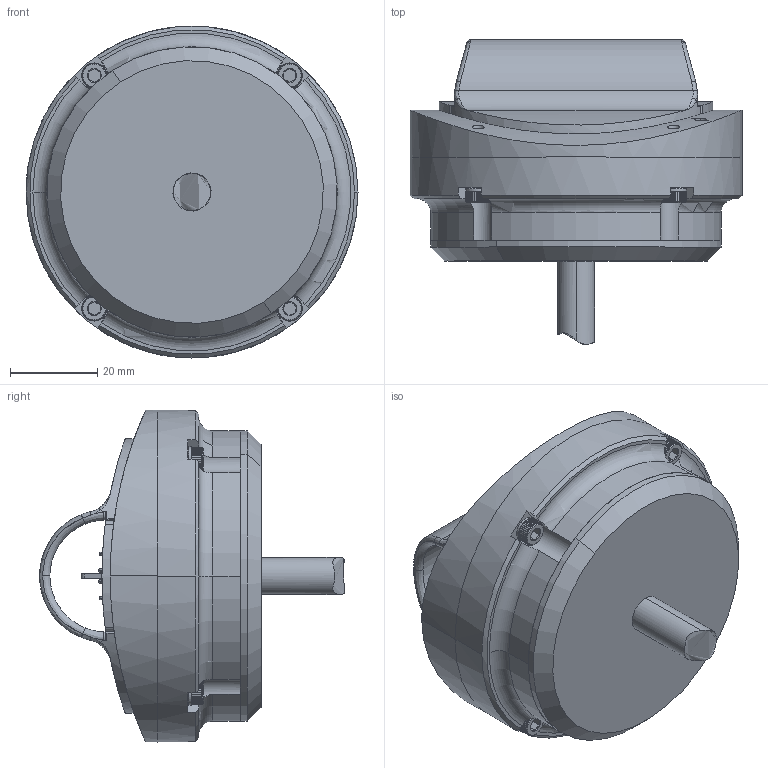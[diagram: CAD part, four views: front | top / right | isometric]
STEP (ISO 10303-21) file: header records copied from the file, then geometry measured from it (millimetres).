
FILE_DESCRIPTION (( 'STEP AP214' ), '1' );
FILE_NAME ('10018 Model 103 RevB NO DETAIL.STEP', '2024-07-03T04:17:59', ( '' ), ( '' ), 'SwSTEP 2.0', 'SolidWorks 2023', '' );
FILE_SCHEMA (( 'AUTOMOTIVE_DESIGN' ));
Length unit declared in the file: inch
Products named in the file (1): 10018 Model 103 RevB NO DETAIL
Bounding box: 76.2 x 69.97 x 76.2 mm (x, y, z)
Volume: 147658.8 mm3; surface area: 40955.9 mm2
Topology: 13 solids, 13 shells, 1318 faces, 3390 edges, 2108 vertices
Faces by surface type: cylinder 587, plane 577, cone 76, bspline 47, torus 29, sphere 2
Entity records: 73301 total; most frequent: CARTESIAN_POINT 25725, ORIENTED_EDGE 6764, DIRECTION 5928, EDGE_CURVE 3382, AXIS2_PLACEMENT_3D 2277, VERTEX_POINT 2106, VECTOR 1374, LINE 1374
